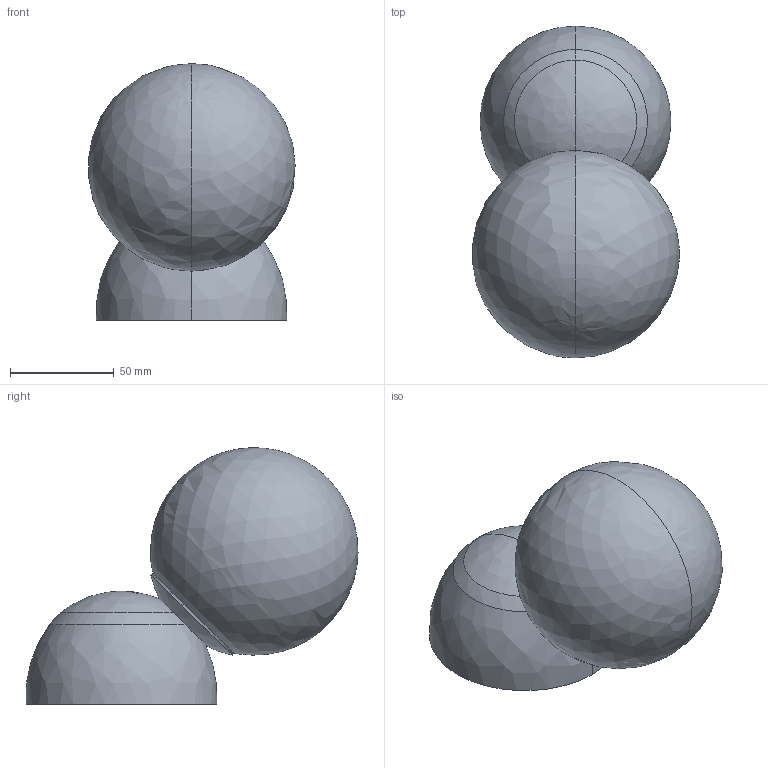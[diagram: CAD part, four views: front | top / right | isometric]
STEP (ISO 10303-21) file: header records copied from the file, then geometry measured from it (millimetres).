
FILE_DESCRIPTION(/* description */ (''),/* implementation_level */ '2;1');
FILE_NAME(/* name */ 'C:\Users\francosartori\Documents\Modelos\01_Digitalizados\0_JOY\03_Publicación\64028.stp',/* time_stamp */ '2020-06-19T14:18:39+02:00',/* author */ ('FrancoSartori'),/* organization */ (''),/* preprocessor_version */ 'ST-DEVELOPER v18.1',/* originating_system */ 'AutoCAD Mechanical',/* authorisation */ '');
FILE_SCHEMA (('AUTOMOTIVE_DESIGN { 1 0 10303 214 3 1 1 }'));
Length unit declared in the file: millimetre
Products named in the file (2): Product; 64027_64028_JOY - JOY-460612-Export
Assembly tree (1 placements, depth 2):
  Product
    64027_64028_JOY - JOY-460612-Export
Bounding box: 99.64 x 160.07 x 123.7 mm (x, y, z)
Volume: 119402.2 mm3; surface area: 113803.2 mm2
Topology: 4 solids, 6 shells, 104 faces, 261 edges, 157 vertices
Faces by surface type: plane 40, bspline 28, cylinder 24, sphere 4, torus 4, cone 4
Entity records: 5457 total; most frequent: CARTESIAN_POINT 3216, ORIENTED_EDGE 506, DIRECTION 381, EDGE_CURVE 253, VERTEX_POINT 157, AXIS2_PLACEMENT_3D 141, EDGE_LOOP 106, FACE_OUTER_BOUND 104
